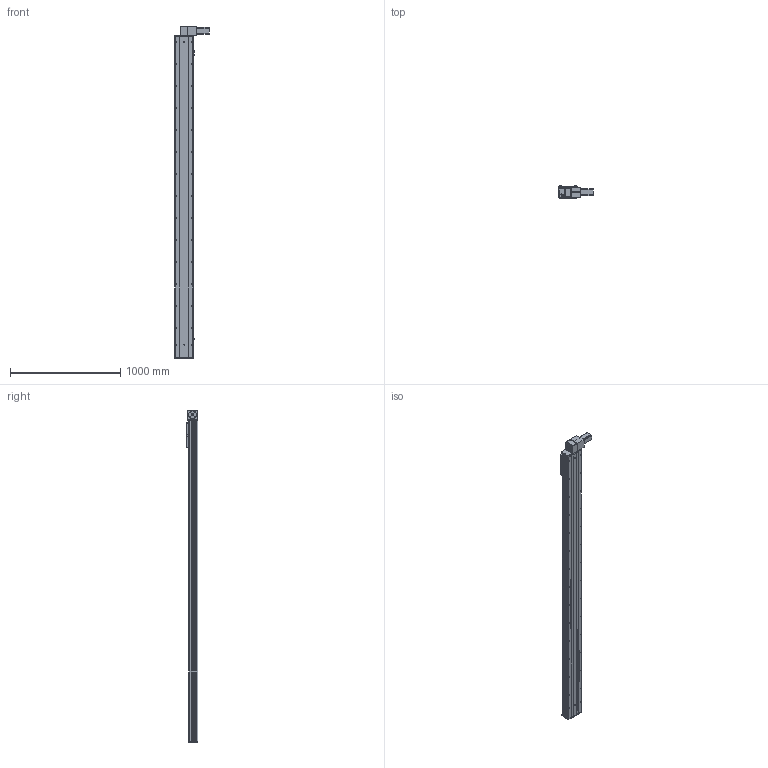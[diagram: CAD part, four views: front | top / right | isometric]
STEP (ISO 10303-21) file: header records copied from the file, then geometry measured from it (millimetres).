
FILE_DESCRIPTION (( 'STEP AP203' ), '1' );
FILE_NAME ('Y170CB-D105-S2600-BD-P400W.STEP', '2020-02-20T09:14:02', ( '微软用户' ), ( '微软中国' ), 'SwSTEP 2.0', 'SolidWorks 2017', '' );
FILE_SCHEMA (( 'CONFIG_CONTROL_DESIGN' ));
Length unit declared in the file: millimetre
Products named in the file (16): 70C-雄赽釱-奻-; 0C--雄赽釱俋欶-170; B-源倛裔啣; 70CB-詩湍--; san松下电机400不带刹车----; Y100-135俋离換覜ん--; 70CB-掛极-; Y170CB-陔俋离換覜結え---; --70CB --喘謫眊楊擘啣-; Y1埴倛裔; 70CB-耜裔啣-; 70B喘謫眊----; 70C--詩湍揤踡え-; 0B薊粣ん眊-400W--; 70CB--耜裔; Y170CB-D105-S2600-BD-P400W
Assembly tree (19 placements, depth 2):
  Y170CB-D105-S2600-BD-P400W
    B-源倛裔啣
    san松下电机400不带刹车----
    70CB-掛极-
    --70CB --喘謫眊楊擘啣-
    70CB-耜裔啣-  x2
    70C--詩湍揤踡え-  x2
    70CB--耜裔
    70C-雄赽釱-奻-
    0C--雄赽釱俋欶-170
    70CB-詩湍--
    Y100-135俋离換覜ん--  x3
    Y170CB-陔俋离換覜結え---
    Y1埴倛裔
    70B喘謫眊----
    0B薊粣ん眊-400W--
Bounding box: 313.5 x 107 x 3016 mm (x, y, z)
Volume: 13126625.5 mm3; surface area: 4609637 mm2
Topology: 19 solids, 19 shells, 984 faces, 2618 edges, 1736 vertices
Faces by surface type: cylinder 538, plane 422, cone 24
Entity records: 31055 total; most frequent: CARTESIAN_POINT 5806, DIRECTION 5055, ORIENTED_EDGE 4718, EDGE_CURVE 2359, AXIS2_PLACEMENT_3D 1881, VERTEX_POINT 1566, LINE 1293, VECTOR 1293
